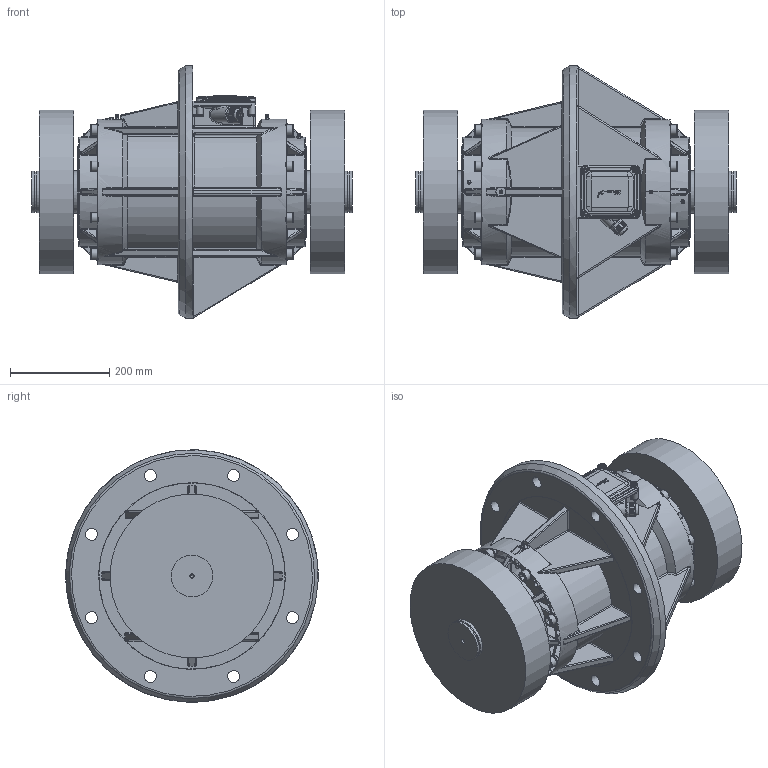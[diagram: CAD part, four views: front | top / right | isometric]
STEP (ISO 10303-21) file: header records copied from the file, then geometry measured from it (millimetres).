
FILE_DESCRIPTION(/* description */ (''),/* implementation_level */ '2;1');
FILE_NAME(/* name */ 'KVM-FO 7000x15-BS.stp',/* time_stamp */ '2026-09-09T15:38:14+03:00',/* author */ ('PC'),/* organization */ (''),/* preprocessor_version */ 'ST-DEVELOPER v20.1',/* originating_system */ 'Autodesk Inventor 2026',/* authorisation */ '');
FILE_SCHEMA (('AUTOMOTIVE_DESIGN { 1 0 10303 214 3 1 1 }'));
Products named in the file (1): KVM-FO 7000x15-BS
Bounding box: 644.3 x 508 x 507.99 mm (x, y, z)
Volume: 43879381.3 mm3; surface area: 1678674.2 mm2
Topology: 3 solids, 67 shells, 2381 faces, 6224 edges, 3998 vertices
Faces by surface type: plane 1214, cylinder 532, bspline 264, cone 232, torus 114, sphere 25
Full cylindrical faces by diameter (mm): 3 x2, 4.773 x1, 4.917 x10, 6 x4, 6.4 x2, 6.647 x16, 8.376 x1, 10 x4, 10.106 x4, 10.5 x4, 11.835 x16, 14 x17, 14.5 x16, 15 x16, 20 x2, 21 x32, 22 x16, 24 x8, 50 x8, 81.5 x2, 84 x4, 84.9 x2, 85 x8, 89 x6, 182 x2, 220 x2, 247.6 x2, 254 x2, 292 x1, 330 x2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
Entity records: 83192 total; most frequent: CARTESIAN_POINT 24856, ORIENTED_EDGE 12280, DIRECTION 10781, EDGE_CURVE 6140, VERTEX_POINT 3998, AXIS2_PLACEMENT_3D 3825, LINE 3131, VECTOR 3131
